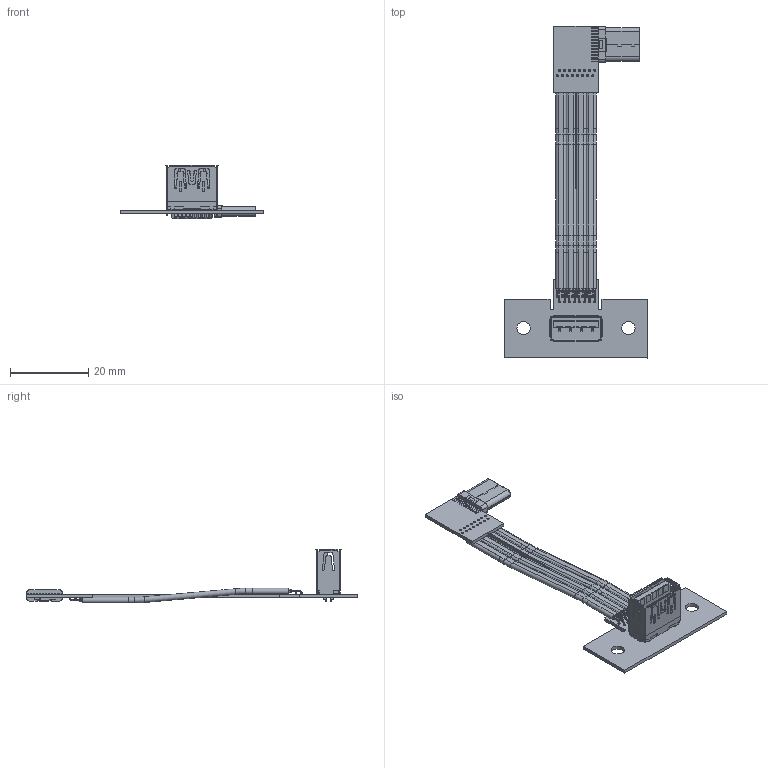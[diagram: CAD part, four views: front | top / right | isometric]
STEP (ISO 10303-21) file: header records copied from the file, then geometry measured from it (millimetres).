
FILE_DESCRIPTION(('Open CASCADE Model'),'2;1');
FILE_NAME('Open CASCADE Shape Model','2022-04-12T17:08:02',('Author'),( 'Open CASCADE'),'Open CASCADE STEP processor 6.8','Open CASCADE 6.8' ,'Unknown');
FILE_SCHEMA(('AUTOMOTIVE_DESIGN { 1 0 10303 214 1 1 1 1 }'));
Length unit declared in the file: millimetre
Products named in the file (92): PCB; Board; Open CASCADE STEP translator 6.8 1.1.1; _1; type_C_T1; 0603_RES; Capsule; Encapsulation; TopCover; C0603_060; Designator46; USB_橙晚20211130_(2); Free-Models; 16_pin_S_20211220
Assembly tree (92 placements, depth 4):
  PCB
    Board
      Open CASCADE STEP translator 6.8 1.1.1
    _1
      type_C_T1
    _1
      0603_RES
        Capsule
        Encapsulation  x2
        TopCover
    _1
      C0603_060
      C0603_060
      C0603_060
    Designator46
      USB_橙晚20211130_(2)
      USB_橙晚20211130_(2)
      USB_橙晚20211130_(2)
      USB_橙晚20211130_(2)
      USB_橙晚20211130_(2)
      USB_橙晚20211130_(2)
      USB_橙晚20211130_(2)
      USB_橙晚20211130_(2)
      USB_橙晚20211130_(2)
      USB_橙晚20211130_(2)
      USB_橙晚20211130_(2)
      USB_橙晚20211130_(2)
      USB_橙晚20211130_(2)
      USB_橙晚20211130_(2)
      USB_橙晚20211130_(2)
      USB_橙晚20211130_(2)
      USB_橙晚20211130_(2)
      USB_橙晚20211130_(2)
      USB_橙晚20211130_(2)
    Free-Models
      16_pin_S_20211220
      16_pin_S_20211220
      16_pin_S_20211220
      16_pin_S_20211220
      16_pin_S_20211220
      16_pin_S_20211220
      16_pin_S_20211220
      16_pin_S_20211220
      16_pin_S_20211220
      16_pin_S_20211220
      16_pin_S_20211220
      16_pin_S_20211220
      16_pin_S_20211220
      16_pin_S_20211220
      16_pin_S_20211220
      16_pin_S_20211220
      16_pin_S_20211220
      16_pin_S_20211220
      16_pin_S_20211220
      16_pin_S_20211220
      16_pin_S_20211220
      16_pin_S_20211220
      16_pin_S_20211220
      16_pin_S_20211220
      16_pin_S_20211220
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Bounding box: 36.83 x 84.93 x 13.77 mm (x, y, z)
Volume: 1682.1 mm3; surface area: 7911 mm2
Topology: 85 solids, 85 shells, 1859 faces, 4697 edges, 3036 vertices
Faces by surface type: plane 987, cylinder 694, torus 108, bspline 62, sphere 8
Full cylindrical faces by diameter (mm): 0.55 x32, 0.8 x9, 3.4 x2
Entity records: 73317 total; most frequent: CARTESIAN_POINT 10711, DIRECTION 9762, ORIENTED_EDGE 9318, EDGE_CURVE 4659, AXIS2_PLACEMENT_3D 3357, LINE 3048, VECTOR 3048, VERTEX_POINT 3016
